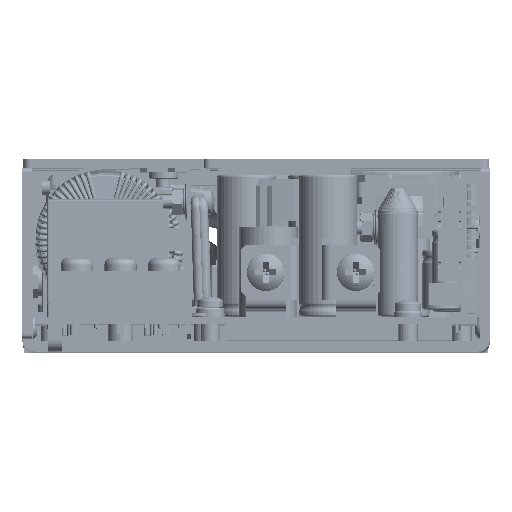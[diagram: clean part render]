
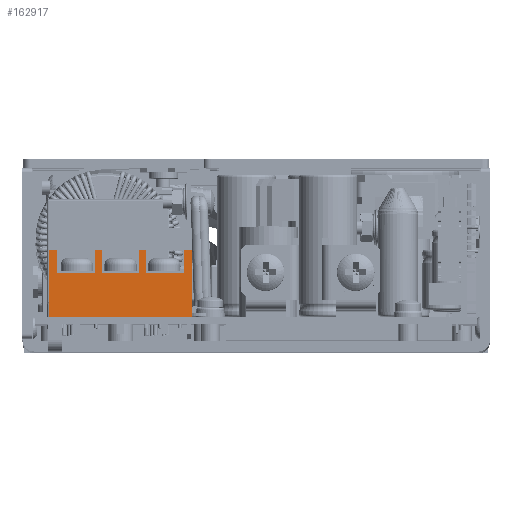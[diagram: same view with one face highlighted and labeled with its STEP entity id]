
A CAD part, top view. The second image highlights one B-rep face of the part: STEP entity #162917.
In plain terms, the highlighted planar face has unit normal (0, 0, 1).
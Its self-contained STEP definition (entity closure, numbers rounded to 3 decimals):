
#3724 = ORIENTED_EDGE ( 'NONE', *, *, #345215, .F. ) ;
#7436 = ORIENTED_EDGE ( 'NONE', *, *, #411796, .F. ) ;
#18926 = ORIENTED_EDGE ( 'NONE', *, *, #291513, .F. ) ;
#24252 = ORIENTED_EDGE ( 'NONE', *, *, #410539, .T. ) ;
#25326 = VECTOR ( 'NONE', #254253, 1000. ) ;
#27556 = DIRECTION ( 'NONE',  ( -1., 0., 0. ) ) ;
#28386 = CARTESIAN_POINT ( 'NONE',  ( 8.727, 9.5, 7.5 ) ) ;
#30180 = AXIS2_PLACEMENT_3D ( 'NONE', #80947, #371571, #178396 ) ;
#32348 = VERTEX_POINT ( 'NONE', #338814 ) ;
#32573 = VECTOR ( 'NONE', #37748, 1000. ) ;
#33390 = VECTOR ( 'NONE', #290622, 1000. ) ;
#35755 = LINE ( 'NONE', #234663, #121537 ) ;
#36661 = EDGE_CURVE ( 'NONE', #252784, #159256, #54213, .T. ) ;
#37748 = DIRECTION ( 'NONE',  ( 0., 1., 0. ) ) ;
#40465 = EDGE_CURVE ( 'NONE', #393125, #122227, #306196, .T. ) ;
#41290 = DIRECTION ( 'NONE',  ( 0., -1., 0. ) ) ;
#41706 = CARTESIAN_POINT ( 'NONE',  ( 6.727, 9.5, 7.5 ) ) ;
#44115 = VECTOR ( 'NONE', #93344, 1000. ) ;
#45770 = LINE ( 'NONE', #222395, #389220 ) ;
#46902 = FACE_OUTER_BOUND ( 'NONE', #214044, .T. ) ;
#50741 = DIRECTION ( 'NONE',  ( 0., 1., 0. ) ) ;
#50932 = CARTESIAN_POINT ( 'NONE',  ( -3.273, 0., 7.5 ) ) ;
#52328 = EDGE_CURVE ( 'NONE', #285592, #245558, #378878, .T. ) ;
#53942 = ORIENTED_EDGE ( 'NONE', *, *, #36661, .T. ) ;
#54213 = LINE ( 'NONE', #28386, #44115 ) ;
#57474 = VECTOR ( 'NONE', #87965, 1000. ) ;
#64923 = CARTESIAN_POINT ( 'NONE',  ( 16.227, 18.6, 7.5 ) ) ;
#70114 = VECTOR ( 'NONE', #103874, 1000. ) ;
#71535 = DIRECTION ( 'NONE',  ( -1., 0., 0. ) ) ;
#76427 = VERTEX_POINT ( 'NONE', #176688 ) ;
#79799 = EDGE_CURVE ( 'NONE', #32348, #327131, #186790, .T. ) ;
#80947 = CARTESIAN_POINT ( 'NONE',  ( -3.273, 18.6, 7.5 ) ) ;
#84756 = DIRECTION ( 'NONE',  ( -1., 0., 0. ) ) ;
#86405 = CARTESIAN_POINT ( 'NONE',  ( 6.727, 18.6, 7.5 ) ) ;
#87245 = CARTESIAN_POINT ( 'NONE',  ( 27.727, 0., 7.5 ) ) ;
#87965 = DIRECTION ( 'NONE',  ( -1., 0., 0. ) ) ;
#88366 = VERTEX_POINT ( 'NONE', #178870 ) ;
#93344 = DIRECTION ( 'NONE',  ( -1., 0., 0. ) ) ;
#93531 = ORIENTED_EDGE ( 'NONE', *, *, #52328, .T. ) ;
#99085 = LINE ( 'NONE', #64923, #33390 ) ;
#101341 = CARTESIAN_POINT ( 'NONE',  ( 27.727, 18.6, 7.5 ) ) ;
#102808 = CARTESIAN_POINT ( 'NONE',  ( -1.573, 18.6, 7.5 ) ) ;
#102867 = CARTESIAN_POINT ( 'NONE',  ( -1.573, 18.6, 7.5 ) ) ;
#103874 = DIRECTION ( 'NONE',  ( 0., -1., 0. ) ) ;
#107636 = CARTESIAN_POINT ( 'NONE',  ( 16.227, 9.5, 7.5 ) ) ;
#113157 = VERTEX_POINT ( 'NONE', #87245 ) ;
#114227 = VECTOR ( 'NONE', #71535, 1000. ) ;
#118756 = DIRECTION ( 'NONE',  ( 0., 1., 0. ) ) ;
#121537 = VECTOR ( 'NONE', #41290, 1000. ) ;
#122227 = VERTEX_POINT ( 'NONE', #322827 ) ;
#124338 = DIRECTION ( 'NONE',  ( -1., 0., 0. ) ) ;
#129271 = LINE ( 'NONE', #175710, #290864 ) ;
#132203 = CARTESIAN_POINT ( 'NONE',  ( 6.727, 18.6, 7.5 ) ) ;
#143194 = DIRECTION ( 'NONE',  ( 0., -1., 0. ) ) ;
#149488 = EDGE_CURVE ( 'NONE', #336824, #76427, #314985, .T. ) ;
#150346 = CARTESIAN_POINT ( 'NONE',  ( 26.027, 9.5, 7.5 ) ) ;
#155788 = LINE ( 'NONE', #214050, #403228 ) ;
#155883 = LINE ( 'NONE', #102867, #70114 ) ;
#157154 = CARTESIAN_POINT ( 'NONE',  ( 8.227, 18.6, 7.5 ) ) ;
#158729 = ORIENTED_EDGE ( 'NONE', *, *, #40465, .T. ) ;
#159256 = VERTEX_POINT ( 'NONE', #180336 ) ;
#161668 = VERTEX_POINT ( 'NONE', #102808 ) ;
#162917 = ADVANCED_FACE ( 'NONE', ( #46902 ), #339150, .T. ) ;
#170225 = ORIENTED_EDGE ( 'NONE', *, *, #384544, .F. ) ;
#175710 = CARTESIAN_POINT ( 'NONE',  ( -3.273, 0., 7.5 ) ) ;
#176688 = CARTESIAN_POINT ( 'NONE',  ( 17.727, 9.5, 7.5 ) ) ;
#177661 = VECTOR ( 'NONE', #118756, 1000. ) ;
#178396 = DIRECTION ( 'NONE',  ( 1., 0., 0. ) ) ;
#178870 = CARTESIAN_POINT ( 'NONE',  ( -3.273, 0., 7.5 ) ) ;
#180336 = CARTESIAN_POINT ( 'NONE',  ( 8.227, 9.5, 7.5 ) ) ;
#181655 = DIRECTION ( 'NONE',  ( 0., -1., 0. ) ) ;
#182888 = ORIENTED_EDGE ( 'NONE', *, *, #332783, .F. ) ;
#186790 = LINE ( 'NONE', #317803, #328036 ) ;
#187400 = ORIENTED_EDGE ( 'NONE', *, *, #149488, .T. ) ;
#211671 = CARTESIAN_POINT ( 'NONE',  ( 26.027, 18.6, 7.5 ) ) ;
#214044 = EDGE_LOOP ( 'NONE', ( #3724, #187400, #216652, #158729, #170225, #53942, #18926, #93531, #182888, #310295, #7436, #24252, #244599, #275168, #291870, #305321 ) ) ;
#214050 = CARTESIAN_POINT ( 'NONE',  ( 17.727, 18.6, 7.5 ) ) ;
#216652 = ORIENTED_EDGE ( 'NONE', *, *, #310405, .F. ) ;
#220228 = CARTESIAN_POINT ( 'NONE',  ( -3.273, 18.6, 7.5 ) ) ;
#222395 = CARTESIAN_POINT ( 'NONE',  ( -0.773, 18.6, 7.5 ) ) ;
#234663 = CARTESIAN_POINT ( 'NONE',  ( 8.227, 9.5, 7.5 ) ) ;
#238633 = VECTOR ( 'NONE', #84756, 1000. ) ;
#244599 = ORIENTED_EDGE ( 'NONE', *, *, #389733, .T. ) ;
#245558 = VERTEX_POINT ( 'NONE', #132203 ) ;
#245608 = VECTOR ( 'NONE', #406534, 1000. ) ;
#248087 = VERTEX_POINT ( 'NONE', #41706 ) ;
#252784 = VERTEX_POINT ( 'NONE', #107636 ) ;
#254253 = DIRECTION ( 'NONE',  ( -1., 0., 0. ) ) ;
#273392 = CARTESIAN_POINT ( 'NONE',  ( 17.727, 18.6, 7.5 ) ) ;
#275168 = ORIENTED_EDGE ( 'NONE', *, *, #370629, .T. ) ;
#285592 = VERTEX_POINT ( 'NONE', #157154 ) ;
#290133 = LINE ( 'NONE', #101341, #32573 ) ;
#290622 = DIRECTION ( 'NONE',  ( 0., 1., 0. ) ) ;
#290864 = VECTOR ( 'NONE', #143194, 1000. ) ;
#291028 = LINE ( 'NONE', #211671, #376849 ) ;
#291513 = EDGE_CURVE ( 'NONE', #285592, #159256, #35755, .T. ) ;
#291870 = ORIENTED_EDGE ( 'NONE', *, *, #403625, .T. ) ;
#295390 = CARTESIAN_POINT ( 'NONE',  ( -1.573, 9.5, 7.5 ) ) ;
#299520 = CARTESIAN_POINT ( 'NONE',  ( 26.027, 18.6, 7.5 ) ) ;
#305321 = ORIENTED_EDGE ( 'NONE', *, *, #79799, .T. ) ;
#306196 = LINE ( 'NONE', #360766, #114227 ) ;
#310295 = ORIENTED_EDGE ( 'NONE', *, *, #349598, .T. ) ;
#310405 = EDGE_CURVE ( 'NONE', #393125, #76427, #155788, .T. ) ;
#310501 = CARTESIAN_POINT ( 'NONE',  ( -0.773, 9.5, 7.5 ) ) ;
#313741 = CARTESIAN_POINT ( 'NONE',  ( 18.227, 9.5, 7.5 ) ) ;
#314985 = LINE ( 'NONE', #313741, #57474 ) ;
#317803 = CARTESIAN_POINT ( 'NONE',  ( 25.227, 18.6, 7.5 ) ) ;
#322827 = CARTESIAN_POINT ( 'NONE',  ( 16.227, 18.6, 7.5 ) ) ;
#324390 = LINE ( 'NONE', #310501, #238633 ) ;
#327131 = VERTEX_POINT ( 'NONE', #299520 ) ;
#328036 = VECTOR ( 'NONE', #124338, 1000. ) ;
#331415 = LINE ( 'NONE', #50932, #245608 ) ;
#332783 = EDGE_CURVE ( 'NONE', #248087, #245558, #349166, .T. ) ;
#336824 = VERTEX_POINT ( 'NONE', #150346 ) ;
#338814 = CARTESIAN_POINT ( 'NONE',  ( 27.727, 18.6, 7.5 ) ) ;
#339150 = PLANE ( 'NONE',  #30180 ) ;
#345215 = EDGE_CURVE ( 'NONE', #336824, #327131, #291028, .T. ) ;
#349166 = LINE ( 'NONE', #86405, #177661 ) ;
#349598 = EDGE_CURVE ( 'NONE', #248087, #362601, #324390, .T. ) ;
#360766 = CARTESIAN_POINT ( 'NONE',  ( 15.727, 18.6, 7.5 ) ) ;
#362601 = VERTEX_POINT ( 'NONE', #295390 ) ;
#370629 = EDGE_CURVE ( 'NONE', #88366, #113157, #331415, .T. ) ;
#371571 = DIRECTION ( 'NONE',  ( 0., 0., 1. ) ) ;
#376849 = VECTOR ( 'NONE', #50741, 1000. ) ;
#378878 = LINE ( 'NONE', #382623, #25326 ) ;
#382623 = CARTESIAN_POINT ( 'NONE',  ( 6.227, 18.6, 7.5 ) ) ;
#384544 = EDGE_CURVE ( 'NONE', #252784, #122227, #99085, .T. ) ;
#389220 = VECTOR ( 'NONE', #27556, 1000. ) ;
#389733 = EDGE_CURVE ( 'NONE', #414321, #88366, #129271, .T. ) ;
#393125 = VERTEX_POINT ( 'NONE', #273392 ) ;
#403228 = VECTOR ( 'NONE', #181655, 1000. ) ;
#403625 = EDGE_CURVE ( 'NONE', #113157, #32348, #290133, .T. ) ;
#406534 = DIRECTION ( 'NONE',  ( 1., 0., 0. ) ) ;
#410539 = EDGE_CURVE ( 'NONE', #161668, #414321, #45770, .T. ) ;
#411796 = EDGE_CURVE ( 'NONE', #161668, #362601, #155883, .T. ) ;
#414321 = VERTEX_POINT ( 'NONE', #220228 ) ;
